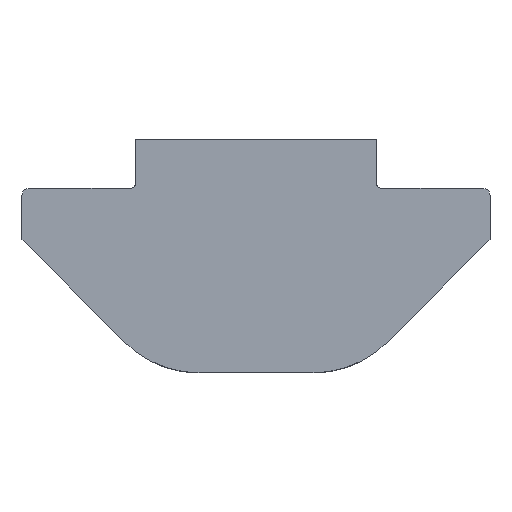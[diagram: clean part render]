
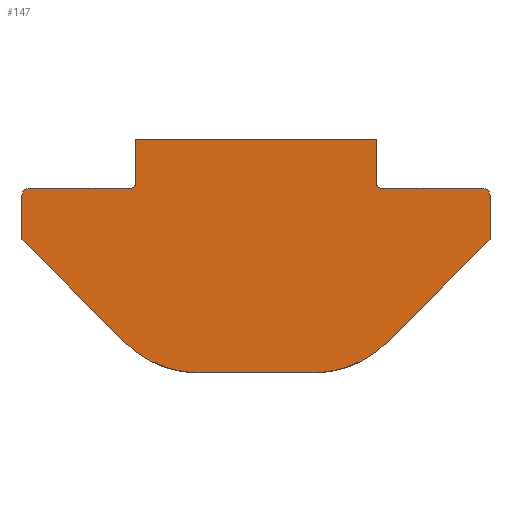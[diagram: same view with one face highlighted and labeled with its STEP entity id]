
A CAD part, front view. The second image highlights one B-rep face of the part: STEP entity #147.
In plain terms, the highlighted planar face has unit normal (0, -1, 0).
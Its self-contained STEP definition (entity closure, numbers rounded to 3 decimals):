
#147=ADVANCED_FACE('',(#243),#244,.T.);
#243=FACE_OUTER_BOUND('',#328,.T.);
#244=PLANE('',#329);
#328=EDGE_LOOP('',(#479,#480,#481,#482,#483,#484,#485,#486,#487,#488,#489,#490,#491,#492,#493,#494));
#329=AXIS2_PLACEMENT_3D('',#495,#496,#497);
#479=ORIENTED_EDGE('',*,*,#606,.F.);
#480=ORIENTED_EDGE('',*,*,#639,.F.);
#481=ORIENTED_EDGE('',*,*,#585,.F.);
#482=ORIENTED_EDGE('',*,*,#640,.F.);
#483=ORIENTED_EDGE('',*,*,#576,.F.);
#484=ORIENTED_EDGE('',*,*,#630,.F.);
#485=ORIENTED_EDGE('',*,*,#602,.F.);
#486=ORIENTED_EDGE('',*,*,#598,.F.);
#487=ORIENTED_EDGE('',*,*,#589,.F.);
#488=ORIENTED_EDGE('',*,*,#594,.F.);
#489=ORIENTED_EDGE('',*,*,#616,.F.);
#490=ORIENTED_EDGE('',*,*,#622,.F.);
#491=ORIENTED_EDGE('',*,*,#626,.F.);
#492=ORIENTED_EDGE('',*,*,#636,.F.);
#493=ORIENTED_EDGE('',*,*,#611,.F.);
#494=ORIENTED_EDGE('',*,*,#633,.F.);
#495=CARTESIAN_POINT('',(0.,-1008.0,-1.122));
#496=DIRECTION('',(0.0,-1.0,0.0));
#497=DIRECTION('',(0.0,0.0,-1.0));
#576=EDGE_CURVE('',#665,#667,#668,.T.);
#585=EDGE_CURVE('',#682,#684,#685,.T.);
#589=EDGE_CURVE('',#690,#691,#692,.T.);
#594=EDGE_CURVE('',#699,#690,#700,.T.);
#598=EDGE_CURVE('',#691,#705,#706,.T.);
#602=EDGE_CURVE('',#705,#711,#712,.T.);
#606=EDGE_CURVE('',#717,#718,#719,.T.);
#611=EDGE_CURVE('',#726,#727,#728,.T.);
#616=EDGE_CURVE('',#735,#699,#736,.T.);
#622=EDGE_CURVE('',#745,#735,#746,.T.);
#626=EDGE_CURVE('',#751,#745,#752,.T.);
#630=EDGE_CURVE('',#711,#665,#757,.T.);
#633=EDGE_CURVE('',#718,#726,#760,.T.);
#636=EDGE_CURVE('',#727,#751,#763,.T.);
#639=EDGE_CURVE('',#684,#717,#766,.T.);
#640=EDGE_CURVE('',#667,#682,#767,.T.);
#665=VERTEX_POINT('',#811);
#667=VERTEX_POINT('',#814);
#668=CIRCLE('',#815,2.2);
#682=VERTEX_POINT('',#883);
#684=VERTEX_POINT('',#886);
#685=CIRCLE('',#887,2.2);
#690=VERTEX_POINT('',#893);
#691=VERTEX_POINT('',#894);
#692=LINE('',#895,#896);
#699=VERTEX_POINT('',#906);
#700=CIRCLE('',#907,0.1);
#705=VERTEX_POINT('',#913);
#706=CIRCLE('',#914,0.15);
#711=VERTEX_POINT('',#920);
#712=LINE('',#921,#922);
#717=VERTEX_POINT('',#929);
#718=VERTEX_POINT('',#930);
#719=LINE('',#931,#932);
#726=VERTEX_POINT('',#942);
#727=VERTEX_POINT('',#943);
#728=LINE('',#944,#945);
#735=VERTEX_POINT('',#955);
#736=LINE('',#956,#957);
#745=VERTEX_POINT('',#968);
#746=LINE('',#969,#970);
#751=VERTEX_POINT('',#977);
#752=LINE('',#978,#979);
#757=LINE('',#986,#987);
#760=CIRCLE('',#991,0.15);
#763=CIRCLE('',#994,0.1);
#766=LINE('',#997,#998);
#767=LINE('',#999,#1000);
#811=CARTESIAN_POINT('',(2.69,-1008.0,-3.106));
#814=CARTESIAN_POINT('',(1.135,-1008.0,-3.75));
#815=AXIS2_PLACEMENT_3D('',#1023,#1024,#1025);
#883=CARTESIAN_POINT('',(-1.135,-1008.0,-3.75));
#886=CARTESIAN_POINT('',(-2.69,-1008.0,-3.106));
#887=AXIS2_PLACEMENT_3D('',#1030,#1031,#1032);
#893=CARTESIAN_POINT('',(2.55,-1008.0,0.0));
#894=CARTESIAN_POINT('',(4.6,-1008.0,0.));
#895=CARTESIAN_POINT('',(4.6,-1008.0,0.0));
#896=VECTOR('',#1037,1.0);
#906=CARTESIAN_POINT('',(2.45,-1008.0,0.1));
#907=AXIS2_PLACEMENT_3D('',#1041,#1042,#1043);
#913=CARTESIAN_POINT('',(4.75,-1008.0,-0.15));
#914=AXIS2_PLACEMENT_3D('',#1048,#1049,#1050);
#920=CARTESIAN_POINT('',(4.75,-1008.0,-1.046));
#921=CARTESIAN_POINT('',(4.75,-1008.0,-1.046));
#922=VECTOR('',#1055,1.0);
#929=CARTESIAN_POINT('',(-4.75,-1008.0,-1.046));
#930=CARTESIAN_POINT('',(-4.75,-1008.0,-0.15));
#931=CARTESIAN_POINT('',(-4.75,-1008.0,-0.15));
#932=VECTOR('',#1058,1.0);
#942=CARTESIAN_POINT('',(-4.6,-1008.0,0.0));
#943=CARTESIAN_POINT('',(-2.55,-1008.0,0.));
#944=CARTESIAN_POINT('',(-2.55,-1008.0,0.0));
#945=VECTOR('',#1062,1.0);
#955=CARTESIAN_POINT('',(2.45,-1008.0,1.0));
#956=CARTESIAN_POINT('',(2.45,-1008.0,0.1));
#957=VECTOR('',#1066,1.0);
#968=CARTESIAN_POINT('',(-2.45,-1008.0,1.0));
#969=CARTESIAN_POINT('',(2.45,-1008.0,1.0));
#970=VECTOR('',#1075,1.0);
#977=CARTESIAN_POINT('',(-2.45,-1008.0,0.1));
#978=CARTESIAN_POINT('',(-2.45,-1008.0,1.0));
#979=VECTOR('',#1078,1.0);
#986=CARTESIAN_POINT('',(2.69,-1008.0,-3.106));
#987=VECTOR('',#1081,1.0);
#991=AXIS2_PLACEMENT_3D('',#1083,#1084,#1085);
#994=AXIS2_PLACEMENT_3D('',#1089,#1090,#1091);
#997=CARTESIAN_POINT('',(-4.75,-1008.0,-1.046));
#998=VECTOR('',#1095,1.0);
#999=CARTESIAN_POINT('',(-1.135,-1008.0,-3.75));
#1000=VECTOR('',#1096,1.0);
#1023=CARTESIAN_POINT('',(1.135,-1008.0,-1.55));
#1024=DIRECTION('',(0.0,1.0,0.0));
#1025=DIRECTION('',(0.,0.0,-1.0));
#1030=CARTESIAN_POINT('',(-1.135,-1008.0,-1.55));
#1031=DIRECTION('',(0.0,1.0,0.0));
#1032=DIRECTION('',(-0.707,0.0,-0.707));
#1037=DIRECTION('',(1.0,0.0,0.0));
#1041=CARTESIAN_POINT('',(2.55,-1008.0,0.1));
#1042=DIRECTION('',(0.0,-1.0,0.0));
#1043=DIRECTION('',(-1.0,0.0,0.));
#1048=CARTESIAN_POINT('',(4.6,-1008.0,-0.15));
#1049=DIRECTION('',(-0.0,1.0,0.0));
#1050=DIRECTION('',(1.0,0.0,0.));
#1055=DIRECTION('',(0.0,0.0,-1.0));
#1058=DIRECTION('',(0.0,0.0,1.0));
#1062=DIRECTION('',(1.0,0.0,0.0));
#1066=DIRECTION('',(0.0,0.0,-1.0));
#1075=DIRECTION('',(1.0,0.0,0.0));
#1078=DIRECTION('',(0.0,0.0,1.0));
#1081=DIRECTION('',(-0.707,0.0,-0.707));
#1083=CARTESIAN_POINT('',(-4.6,-1008.0,-0.15));
#1084=DIRECTION('',(0.0,1.0,0.0));
#1085=DIRECTION('',(0.0,0.0,1.0));
#1089=CARTESIAN_POINT('',(-2.55,-1008.0,0.1));
#1090=DIRECTION('',(0.0,-1.0,0.0));
#1091=DIRECTION('',(0.0,0.0,-1.0));
#1095=DIRECTION('',(-0.707,0.0,0.707));
#1096=DIRECTION('',(-1.0,0.0,0.0));
